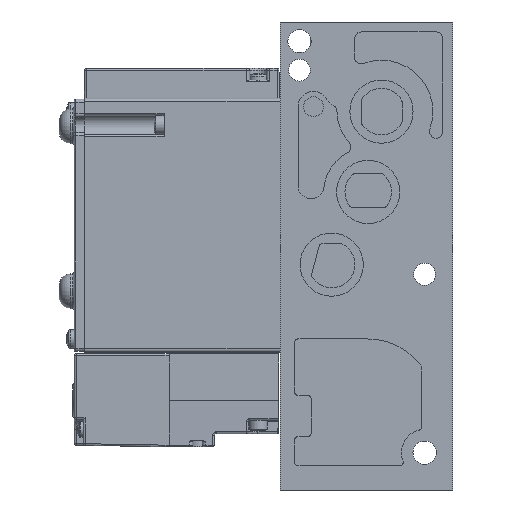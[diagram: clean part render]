
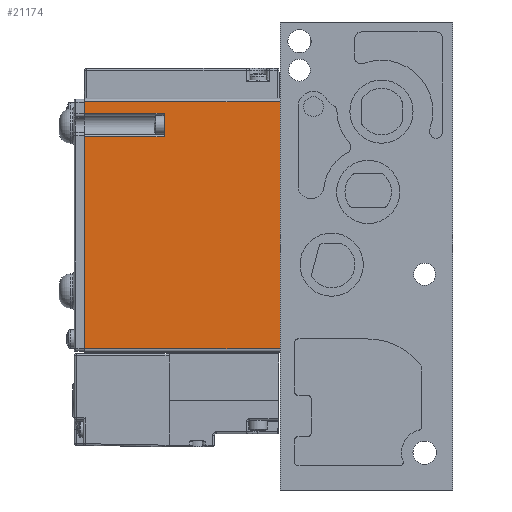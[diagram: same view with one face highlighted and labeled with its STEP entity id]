
A CAD part, left-side view. The second image highlights one B-rep face of the part: STEP entity #21174.
In plain terms, the highlighted planar face has unit normal (-1, 0, 0).
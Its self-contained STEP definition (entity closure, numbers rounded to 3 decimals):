
#796 = CARTESIAN_POINT ( 'NONE',  ( -12., 35., 26.75 ) ) ;
#3181 = VECTOR ( 'NONE', #43935, 1000. ) ;
#4898 = CARTESIAN_POINT ( 'NONE',  ( -12., 35., 26.75 ) ) ;
#10335 = FACE_OUTER_BOUND ( 'NONE', #89037, .T. ) ;
#11097 = VECTOR ( 'NONE', #86572, 1000. ) ;
#12327 = EDGE_CURVE ( 'NONE', #44251, #28415, #36929, .T. ) ;
#13108 = ORIENTED_EDGE ( 'NONE', *, *, #90045, .T. ) ;
#14474 = LINE ( 'NONE', #77235, #51199 ) ;
#15797 = LINE ( 'NONE', #80712, #3181 ) ;
#15838 = VERTEX_POINT ( 'NONE', #49375 ) ;
#18790 = VECTOR ( 'NONE', #59561, 1000. ) ;
#20530 = VERTEX_POINT ( 'NONE', #82053 ) ;
#20885 = VECTOR ( 'NONE', #40404, 1000. ) ;
#21174 = ADVANCED_FACE ( 'NONE', ( #10335 ), #68582, .T. ) ;
#22331 = ORIENTED_EDGE ( 'NONE', *, *, #29568, .F. ) ;
#23808 = ORIENTED_EDGE ( 'NONE', *, *, #12327, .T. ) ;
#24169 = EDGE_CURVE ( 'NONE', #15838, #25808, #14474, .T. ) ;
#24879 = CARTESIAN_POINT ( 'NONE',  ( -12., 59., 38.25 ) ) ;
#25808 = VERTEX_POINT ( 'NONE', #43890 ) ;
#26009 = DIRECTION ( 'NONE',  ( 0., 0., -1. ) ) ;
#28415 = VERTEX_POINT ( 'NONE', #92043 ) ;
#28492 = VECTOR ( 'NONE', #36815, 1000. ) ;
#29442 = CARTESIAN_POINT ( 'NONE',  ( -12., 35., 26.75 ) ) ;
#29568 = EDGE_CURVE ( 'NONE', #85033, #28415, #82942, .T. ) ;
#31468 = ORIENTED_EDGE ( 'NONE', *, *, #78664, .F. ) ;
#32197 = DIRECTION ( 'NONE',  ( 0., 0., 1. ) ) ;
#34627 = VECTOR ( 'NONE', #56287, 1000. ) ;
#36815 = DIRECTION ( 'NONE',  ( 0., 1., 0. ) ) ;
#36929 = LINE ( 'NONE', #63729, #34627 ) ;
#40404 = DIRECTION ( 'NONE',  ( 0., 1., 0. ) ) ;
#43644 = VECTOR ( 'NONE', #26009, 1000. ) ;
#43890 = CARTESIAN_POINT ( 'NONE',  ( -12., 59., 33.75 ) ) ;
#43935 = DIRECTION ( 'NONE',  ( 0., 0., 1. ) ) ;
#44251 = VERTEX_POINT ( 'NONE', #65318 ) ;
#48051 = LINE ( 'NONE', #29442, #28492 ) ;
#49375 = CARTESIAN_POINT ( 'NONE',  ( -12., 35., 33.75 ) ) ;
#49547 = EDGE_CURVE ( 'NONE', #64529, #15838, #92567, .T. ) ;
#51199 = VECTOR ( 'NONE', #84743, 1000. ) ;
#52423 = LINE ( 'NONE', #85933, #11097 ) ;
#52822 = ORIENTED_EDGE ( 'NONE', *, *, #85678, .F. ) ;
#54863 = CARTESIAN_POINT ( 'NONE',  ( -12., 59., 37.25 ) ) ;
#56287 = DIRECTION ( 'NONE',  ( 0., -1., 0. ) ) ;
#58390 = CARTESIAN_POINT ( 'NONE',  ( -12., 59., 37.25 ) ) ;
#59561 = DIRECTION ( 'NONE',  ( 0., 0., 1. ) ) ;
#61600 = ORIENTED_EDGE ( 'NONE', *, *, #24169, .F. ) ;
#62301 = LINE ( 'NONE', #54863, #20885 ) ;
#63035 = CARTESIAN_POINT ( 'NONE',  ( -12., 0., 37.25 ) ) ;
#63729 = CARTESIAN_POINT ( 'NONE',  ( -12., 0., -37.25 ) ) ;
#64529 = VERTEX_POINT ( 'NONE', #4898 ) ;
#64959 = EDGE_CURVE ( 'NONE', #85033, #76994, #62301, .T. ) ;
#65318 = CARTESIAN_POINT ( 'NONE',  ( -12., 59., -37.25 ) ) ;
#68582 = PLANE ( 'NONE',  #84788 ) ;
#70061 = CARTESIAN_POINT ( 'NONE',  ( -12., 0., 38.25 ) ) ;
#76319 = DIRECTION ( 'NONE',  ( -1., 0., 0. ) ) ;
#76994 = VERTEX_POINT ( 'NONE', #58390 ) ;
#77235 = CARTESIAN_POINT ( 'NONE',  ( -12., 35., 33.75 ) ) ;
#78664 = EDGE_CURVE ( 'NONE', #44251, #20530, #15797, .T. ) ;
#80712 = CARTESIAN_POINT ( 'NONE',  ( -12., 59., 38.25 ) ) ;
#82053 = CARTESIAN_POINT ( 'NONE',  ( -12., 59., 26.75 ) ) ;
#82942 = LINE ( 'NONE', #70061, #43644 ) ;
#83417 = ORIENTED_EDGE ( 'NONE', *, *, #64959, .T. ) ;
#84743 = DIRECTION ( 'NONE',  ( 0., 1., 0. ) ) ;
#84788 = AXIS2_PLACEMENT_3D ( 'NONE', #24879, #76319, #32197 ) ;
#85033 = VERTEX_POINT ( 'NONE', #63035 ) ;
#85678 = EDGE_CURVE ( 'NONE', #25808, #76994, #52423, .T. ) ;
#85933 = CARTESIAN_POINT ( 'NONE',  ( -12., 59., 38.25 ) ) ;
#86572 = DIRECTION ( 'NONE',  ( 0., 0., 1. ) ) ;
#89037 = EDGE_LOOP ( 'NONE', ( #31468, #23808, #22331, #83417, #52822, #61600, #95473, #13108 ) ) ;
#90045 = EDGE_CURVE ( 'NONE', #64529, #20530, #48051, .T. ) ;
#92043 = CARTESIAN_POINT ( 'NONE',  ( -12., 0., -37.25 ) ) ;
#92567 = LINE ( 'NONE', #796, #18790 ) ;
#95473 = ORIENTED_EDGE ( 'NONE', *, *, #49547, .F. ) ;
